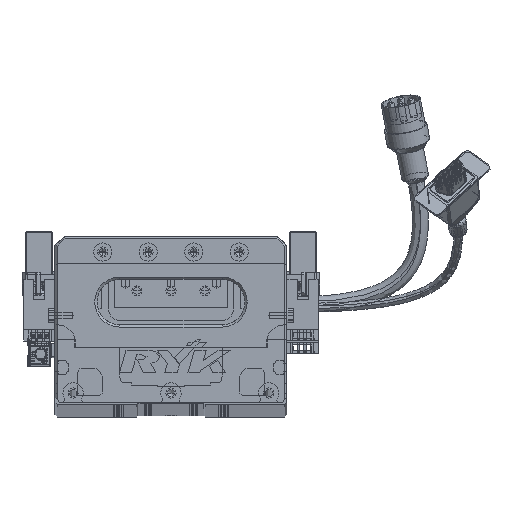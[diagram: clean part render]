
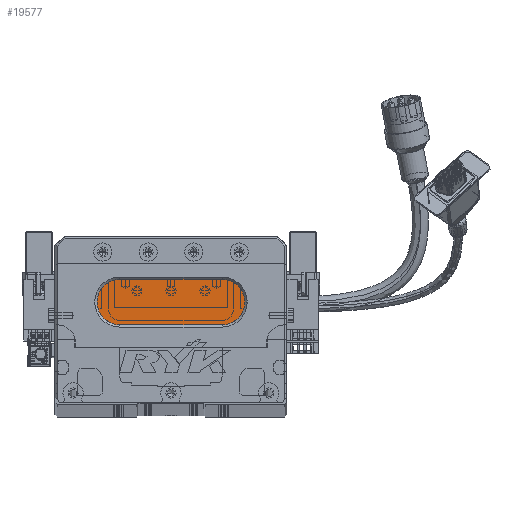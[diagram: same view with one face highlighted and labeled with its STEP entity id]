
A CAD part, top view. The second image highlights one B-rep face of the part: STEP entity #19577.
In plain terms, the highlighted planar face has unit normal (0, 0, 1) as drawn and (0, 0, -1) by its records, which use the part's own axes.
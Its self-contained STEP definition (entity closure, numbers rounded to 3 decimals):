
#1409 = DIRECTION ( 'NONE',  ( -1., 0., 0. ) ) ;
#1907 = CARTESIAN_POINT ( 'NONE',  ( 28.5, 34., 13. ) ) ;
#9678 = AXIS2_PLACEMENT_3D ( 'NONE', #66550, #52439, #1409 ) ;
#10980 = DIRECTION ( 'NONE',  ( -1., 0., 0. ) ) ;
#11734 = ORIENTED_EDGE ( 'NONE', *, *, #33191, .T. ) ;
#12018 = DIRECTION ( 'NONE',  ( 0., 0., -1. ) ) ;
#13542 = EDGE_CURVE ( 'NONE', #57512, #22469, #32782, .T. ) ;
#17582 = CARTESIAN_POINT ( 'NONE',  ( 73.5, 54., 13. ) ) ;
#19577 = ADVANCED_FACE ( 'NONE', ( #43272 ), #45196, .T. ) ;
#19984 = CIRCLE ( 'NONE', #53594, 10. ) ;
#22469 = VERTEX_POINT ( 'NONE', #1907 ) ;
#26631 = LINE ( 'NONE', #51058, #46729 ) ;
#28529 = AXIS2_PLACEMENT_3D ( 'NONE', #31427, #67105, #52386 ) ;
#30258 = CIRCLE ( 'NONE', #9678, 10. ) ;
#31427 = CARTESIAN_POINT ( 'NONE',  ( 73.5, 44., 13. ) ) ;
#32782 = LINE ( 'NONE', #33896, #67543 ) ;
#32933 = DIRECTION ( 'NONE',  ( 0., 0., -1. ) ) ;
#33191 = EDGE_CURVE ( 'NONE', #51404, #57512, #19984, .T. ) ;
#33519 = VERTEX_POINT ( 'NONE', #73086 ) ;
#33896 = CARTESIAN_POINT ( 'NONE',  ( 73.5, 34., 13. ) ) ;
#36675 = VERTEX_POINT ( 'NONE', #80163 ) ;
#37587 = ORIENTED_EDGE ( 'NONE', *, *, #73324, .T. ) ;
#40258 = DIRECTION ( 'NONE',  ( -1., 0., 0. ) ) ;
#43272 = FACE_OUTER_BOUND ( 'NONE', #70227, .T. ) ;
#44899 = ORIENTED_EDGE ( 'NONE', *, *, #13542, .T. ) ;
#45196 = PLANE ( 'NONE',  #28529 ) ;
#46729 = VECTOR ( 'NONE', #87002, 1000. ) ;
#50584 = EDGE_CURVE ( 'NONE', #22469, #33519, #30258, .T. ) ;
#50867 = ORIENTED_EDGE ( 'NONE', *, *, #50584, .T. ) ;
#51058 = CARTESIAN_POINT ( 'NONE',  ( 73.5, 54., 13. ) ) ;
#51404 = VERTEX_POINT ( 'NONE', #17582 ) ;
#52386 = DIRECTION ( 'NONE',  ( -1., 0., 0. ) ) ;
#52439 = DIRECTION ( 'NONE',  ( 0., 0., -1. ) ) ;
#53594 = AXIS2_PLACEMENT_3D ( 'NONE', #68144, #12018, #40258 ) ;
#57512 = VERTEX_POINT ( 'NONE', #74733 ) ;
#66550 = CARTESIAN_POINT ( 'NONE',  ( 28.5, 44., 13. ) ) ;
#67105 = DIRECTION ( 'NONE',  ( 0., 0., -1. ) ) ;
#67543 = VECTOR ( 'NONE', #82984, 1000. ) ;
#67685 = ORIENTED_EDGE ( 'NONE', *, *, #70163, .T. ) ;
#68144 = CARTESIAN_POINT ( 'NONE',  ( 73.5, 44., 13. ) ) ;
#70163 = EDGE_CURVE ( 'NONE', #33519, #36675, #75548, .T. ) ;
#70227 = EDGE_LOOP ( 'NONE', ( #11734, #44899, #50867, #67685, #37587 ) ) ;
#73086 = CARTESIAN_POINT ( 'NONE',  ( 18.5, 44., 13. ) ) ;
#73324 = EDGE_CURVE ( 'NONE', #36675, #51404, #26631, .T. ) ;
#74733 = CARTESIAN_POINT ( 'NONE',  ( 73.5, 34., 13. ) ) ;
#75548 = CIRCLE ( 'NONE', #91308, 10. ) ;
#80163 = CARTESIAN_POINT ( 'NONE',  ( 28.5, 54., 13. ) ) ;
#82984 = DIRECTION ( 'NONE',  ( -1., 0., 0. ) ) ;
#83244 = CARTESIAN_POINT ( 'NONE',  ( 28.5, 44., 13. ) ) ;
#87002 = DIRECTION ( 'NONE',  ( 1., 0., 0. ) ) ;
#91308 = AXIS2_PLACEMENT_3D ( 'NONE', #83244, #32933, #10980 ) ;
